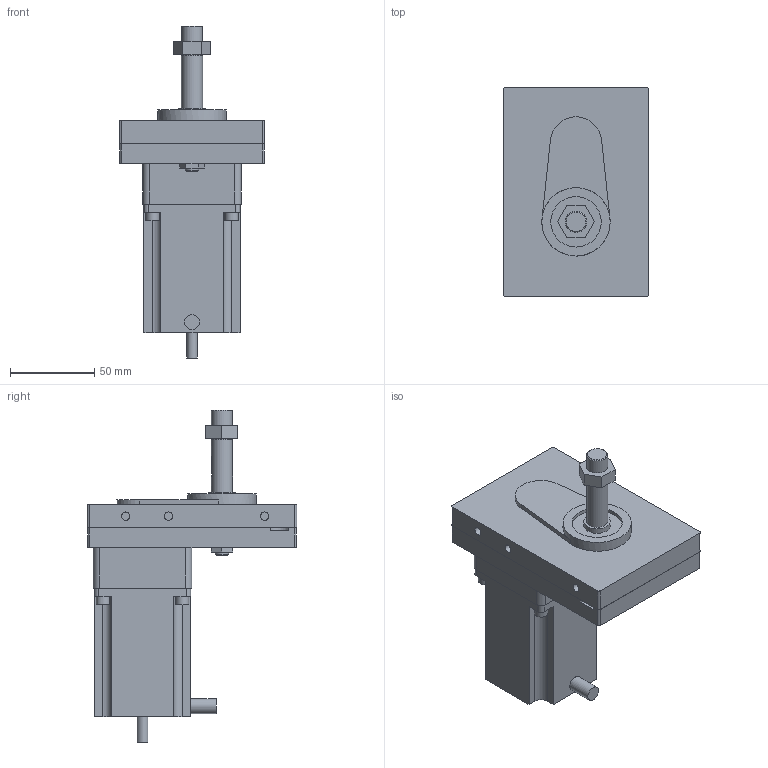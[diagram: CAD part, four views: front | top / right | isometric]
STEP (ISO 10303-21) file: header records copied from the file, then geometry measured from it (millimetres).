
FILE_DESCRIPTION(/* description */ ('Alibre Inc.'),/* implementation_level */ '2;1');
FILE_NAME(/* name */ 'export0',/* time_stamp */ '2013-12-04T23:24:24-05:00',/* author */ (''),/* organization */ (''),/* preprocessor_version */ 'ST-DEVELOPER v14',/* originating_system */ 'Alibre',/* authorisation */ '');
FILE_SCHEMA (('CONFIG_CONTROL_DESIGN'));
Length unit declared in the file: centimetre
Products named in the file (7): ID_1; ID_2; ID_3; ID_4; ID_5; ID_6; ID_7
Bounding box: 86.36 x 124.46 x 197.36 mm (x, y, z)
Volume: 567778.1 mm3; surface area: 83945.2 mm2
Topology: 14 solids, 14 shells, 292 faces, 617 edges, 414 vertices
Faces by surface type: plane 200, cylinder 90, cone 2
Full cylindrical faces by diameter (mm): 2.156 x2, 4.826 x10, 4.978 x9, 5.08 x4, 5.156 x10, 6.35 x2, 7.925 x10, 7.938 x1, 8.89 x1, 9.525 x6, 12.497 x1, 12.649 x1, 12.7 x1, 15.748 x1, 21.59 x1, 29.972 x1, 38.1 x1, 38.227 x1, 40.64 x1
Entity records: 5898 total; most frequent: CARTESIAN_POINT 863, DIRECTION 834, ORIENTED_EDGE 720, AXIS2_PLACEMENT_3D 376, EDGE_CURVE 360, EDGE_LOOP 302, FACE_BOUND 302, VERTEX_POINT 272
